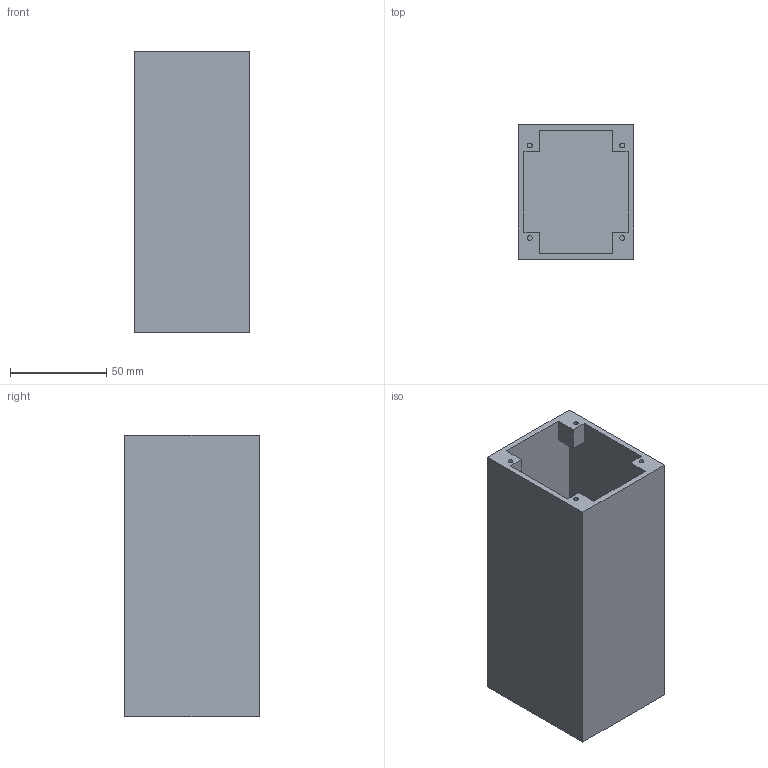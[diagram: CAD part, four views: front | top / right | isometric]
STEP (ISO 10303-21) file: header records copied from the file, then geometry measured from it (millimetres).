
FILE_DESCRIPTION(('Open CASCADE Model'),'2;1');
FILE_NAME('Open CASCADE Shape Model','2026-10-21T16:53:57',('Author'),( 'Open CASCADE'),'Open CASCADE STEP processor 7.9','Open CASCADE 7.9' ,'Unknown');
FILE_SCHEMA(('AUTOMOTIVE_DESIGN { 1 0 10303 214 1 1 1 1 }'));
Length unit declared in the file: millimetre
Products named in the file (1): Open CASCADE STEP translator 7.9 37
Bounding box: 60 x 70 x 146 mm (x, y, z)
Volume: 123000 mm3; surface area: 81157.6 mm2
Topology: 1 solids, 1 shells, 31 faces, 72 edges, 48 vertices
Faces by surface type: plane 27, cylinder 4
Full cylindrical faces by diameter (mm): 2.5 x4
Entity records: 1832 total; most frequent: CARTESIAN_POINT 320, DIRECTION 284, LINE 200, VECTOR 200, ORIENTED_EDGE 144, PCURVE 144, DEFINITIONAL_REPRESENTATION 144, EDGE_CURVE 72
